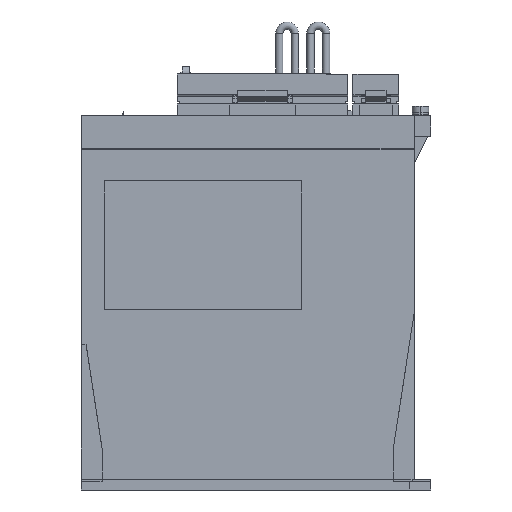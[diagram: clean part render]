
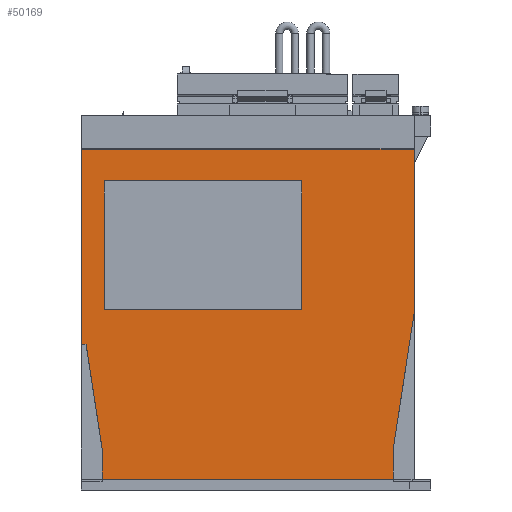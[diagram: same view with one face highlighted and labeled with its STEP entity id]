
A CAD part, left-side view. The second image highlights one B-rep face of the part: STEP entity #50169.
In plain terms, the highlighted planar face has unit normal (-1, 0, 0).
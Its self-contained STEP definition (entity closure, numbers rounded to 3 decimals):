
#20728 = CARTESIAN_POINT ( 'NONE',  ( -5., -155., 85. ) ) ;
#20729 = DIRECTION ( 'NONE',  ( 0., 0., -1. ) ) ;
#20730 = VECTOR ( 'NONE', #20729, 1000. ) ;
#20731 = CARTESIAN_POINT ( 'NONE',  ( -5., -155., 347.576 ) ) ;
#20732 = LINE ( 'NONE', #20731, #20730 ) ;
#20733 = CARTESIAN_POINT ( 'NONE',  ( -5., -155., 163.8 ) ) ;
#26180 = CARTESIAN_POINT ( 'NONE',  ( -5., 5., 163.8 ) ) ;
#26181 = DIRECTION ( 'NONE',  ( 0., 0., -1. ) ) ;
#26182 = VECTOR ( 'NONE', #26181, 1000. ) ;
#26183 = CARTESIAN_POINT ( 'NONE',  ( -5., 5., 347.576 ) ) ;
#26184 = LINE ( 'NONE', #26183, #26182 ) ;
#26185 = CARTESIAN_POINT ( 'NONE',  ( -5., 5., 70. ) ) ;
#26216 = DIRECTION ( 'NONE',  ( 0., -1., 0. ) ) ;
#26217 = VECTOR ( 'NONE', #26216, 1000. ) ;
#26218 = CARTESIAN_POINT ( 'NONE',  ( -5., 5., 163.8 ) ) ;
#26219 = LINE ( 'NONE', #26218, #26217 ) ;
#26220 = DIRECTION ( 'NONE',  ( 0., -0.152, 0.988 ) ) ;
#26221 = VECTOR ( 'NONE', #26220, 1000. ) ;
#26222 = CARTESIAN_POINT ( 'NONE',  ( -5., -145., 20. ) ) ;
#26223 = LINE ( 'NONE', #26222, #26221 ) ;
#26224 = CARTESIAN_POINT ( 'NONE',  ( -5., -145., 20. ) ) ;
#26241 = PLANE ( 'NONE',  #26303 ) ;
#26242 = FACE_OUTER_BOUND ( 'NONE', #50155, .T. ) ;
#26243 = FACE_BOUND ( 'NONE', #50106, .T. ) ;
#26244 = CARTESIAN_POINT ( 'NONE',  ( -5., -145., 5.2 ) ) ;
#26245 = DIRECTION ( 'NONE',  ( 0., -1., 0. ) ) ;
#26246 = VECTOR ( 'NONE', #26245, 1000. ) ;
#26247 = CARTESIAN_POINT ( 'NONE',  ( -5., -5., 5.2 ) ) ;
#26248 = LINE ( 'NONE', #26247, #26246 ) ;
#26249 = CARTESIAN_POINT ( 'NONE',  ( -5., -5., 5.2 ) ) ;
#26250 = DIRECTION ( 'NONE',  ( 0., 0., -1. ) ) ;
#26251 = VECTOR ( 'NONE', #26250, 1000. ) ;
#26252 = CARTESIAN_POINT ( 'NONE',  ( -5., -5., 20. ) ) ;
#26253 = LINE ( 'NONE', #26252, #26251 ) ;
#26254 = CARTESIAN_POINT ( 'NONE',  ( -5., -5., 20. ) ) ;
#26255 = DIRECTION ( 'NONE',  ( 0., 0.152, 0.988 ) ) ;
#26256 = VECTOR ( 'NONE', #26255, 1000. ) ;
#26257 = CARTESIAN_POINT ( 'NONE',  ( -5., -5., 20. ) ) ;
#26258 = LINE ( 'NONE', #26257, #26256 ) ;
#26259 = CARTESIAN_POINT ( 'NONE',  ( -5., 2.692, 70. ) ) ;
#26260 = DIRECTION ( 'NONE',  ( 0., -1., 0. ) ) ;
#26261 = VECTOR ( 'NONE', #26260, 1000. ) ;
#26262 = CARTESIAN_POINT ( 'NONE',  ( -5., 5., 70. ) ) ;
#26263 = LINE ( 'NONE', #26262, #26261 ) ;
#26280 = DIRECTION ( 'NONE',  ( 0., 0., 1. ) ) ;
#26281 = VECTOR ( 'NONE', #26280, 1000. ) ;
#26282 = CARTESIAN_POINT ( 'NONE',  ( -5., -101., 86.6 ) ) ;
#26283 = LINE ( 'NONE', #26282, #26281 ) ;
#26284 = CARTESIAN_POINT ( 'NONE',  ( -5., -101., 148.6 ) ) ;
#26285 = DIRECTION ( 'NONE',  ( 0., 1., 0. ) ) ;
#26286 = VECTOR ( 'NONE', #26285, 1000. ) ;
#26287 = CARTESIAN_POINT ( 'NONE',  ( -5., -6., 148.6 ) ) ;
#26288 = LINE ( 'NONE', #26287, #26286 ) ;
#26289 = CARTESIAN_POINT ( 'NONE',  ( -5., -6., 148.6 ) ) ;
#26290 = DIRECTION ( 'NONE',  ( 0., 0., -1. ) ) ;
#26291 = VECTOR ( 'NONE', #26290, 1000. ) ;
#26292 = CARTESIAN_POINT ( 'NONE',  ( -5., -6., 86.6 ) ) ;
#26293 = LINE ( 'NONE', #26292, #26291 ) ;
#26294 = CARTESIAN_POINT ( 'NONE',  ( -5., -101., 86.6 ) ) ;
#26295 = CARTESIAN_POINT ( 'NONE',  ( -5., -6., 86.6 ) ) ;
#26296 = DIRECTION ( 'NONE',  ( 0., -1., 0. ) ) ;
#26297 = VECTOR ( 'NONE', #26296, 1000. ) ;
#26298 = CARTESIAN_POINT ( 'NONE',  ( -5., -6., 86.6 ) ) ;
#26299 = LINE ( 'NONE', #26298, #26297 ) ;
#26300 = DIRECTION ( 'NONE',  ( 0., 1., 0. ) ) ;
#26301 = DIRECTION ( 'NONE',  ( 1., 0., 0. ) ) ;
#26302 = CARTESIAN_POINT ( 'NONE',  ( -5., 5., 347.576 ) ) ;
#26303 = AXIS2_PLACEMENT_3D ( 'NONE', #26302, #26301, #26300 ) ;
#26380 = DIRECTION ( 'NONE',  ( 0., 0., -1. ) ) ;
#26381 = VECTOR ( 'NONE', #26380, 1000. ) ;
#26382 = CARTESIAN_POINT ( 'NONE',  ( -5., -145., 20. ) ) ;
#26383 = LINE ( 'NONE', #26382, #26381 ) ;
#43996 = ORIENTED_EDGE ( 'NONE', *, *, #50231, .F. ) ;
#47030 = VERTEX_POINT ( 'NONE', #20733 ) ;
#47032 = EDGE_CURVE ( 'NONE', #47030, #47033, #20732, .T. ) ;
#47033 = VERTEX_POINT ( 'NONE', #20728 ) ;
#50106 = EDGE_LOOP ( 'NONE', ( #50170, #50174, #50177, #50180 ) ) ;
#50124 = VERTEX_POINT ( 'NONE', #26185 ) ;
#50126 = EDGE_CURVE ( 'NONE', #50127, #50124, #26184, .T. ) ;
#50127 = VERTEX_POINT ( 'NONE', #26180 ) ;
#50142 = VERTEX_POINT ( 'NONE', #26224 ) ;
#50143 = ORIENTED_EDGE ( 'NONE', *, *, #50144, .T. ) ;
#50144 = EDGE_CURVE ( 'NONE', #50142, #47033, #26223, .T. ) ;
#50145 = ORIENTED_EDGE ( 'NONE', *, *, #47032, .F. ) ;
#50146 = ORIENTED_EDGE ( 'NONE', *, *, #50147, .F. ) ;
#50147 = EDGE_CURVE ( 'NONE', #50127, #47030, #26219, .T. ) ;
#50155 = EDGE_LOOP ( 'NONE', ( #50156, #50157, #50160, #50163, #50166, #43996, #50143, #50145, #50146 ) ) ;
#50156 = ORIENTED_EDGE ( 'NONE', *, *, #50126, .T. ) ;
#50157 = ORIENTED_EDGE ( 'NONE', *, *, #50158, .T. ) ;
#50158 = EDGE_CURVE ( 'NONE', #50124, #50159, #26263, .T. ) ;
#50159 = VERTEX_POINT ( 'NONE', #26259 ) ;
#50160 = ORIENTED_EDGE ( 'NONE', *, *, #50161, .F. ) ;
#50161 = EDGE_CURVE ( 'NONE', #50162, #50159, #26258, .T. ) ;
#50162 = VERTEX_POINT ( 'NONE', #26254 ) ;
#50163 = ORIENTED_EDGE ( 'NONE', *, *, #50164, .T. ) ;
#50164 = EDGE_CURVE ( 'NONE', #50162, #50165, #26253, .T. ) ;
#50165 = VERTEX_POINT ( 'NONE', #26249 ) ;
#50166 = ORIENTED_EDGE ( 'NONE', *, *, #50167, .T. ) ;
#50167 = EDGE_CURVE ( 'NONE', #50165, #50168, #26248, .T. ) ;
#50168 = VERTEX_POINT ( 'NONE', #26244 ) ;
#50169 = ADVANCED_FACE ( 'NONE', ( #26243, #26242 ), #26241, .F. ) ;
#50170 = ORIENTED_EDGE ( 'NONE', *, *, #50171, .F. ) ;
#50171 = EDGE_CURVE ( 'NONE', #50172, #50173, #26299, .T. ) ;
#50172 = VERTEX_POINT ( 'NONE', #26295 ) ;
#50173 = VERTEX_POINT ( 'NONE', #26294 ) ;
#50174 = ORIENTED_EDGE ( 'NONE', *, *, #50175, .F. ) ;
#50175 = EDGE_CURVE ( 'NONE', #50176, #50172, #26293, .T. ) ;
#50176 = VERTEX_POINT ( 'NONE', #26289 ) ;
#50177 = ORIENTED_EDGE ( 'NONE', *, *, #50178, .F. ) ;
#50178 = EDGE_CURVE ( 'NONE', #50179, #50176, #26288, .T. ) ;
#50179 = VERTEX_POINT ( 'NONE', #26284 ) ;
#50180 = ORIENTED_EDGE ( 'NONE', *, *, #50181, .F. ) ;
#50181 = EDGE_CURVE ( 'NONE', #50173, #50179, #26283, .T. ) ;
#50231 = EDGE_CURVE ( 'NONE', #50142, #50168, #26383, .T. ) ;
